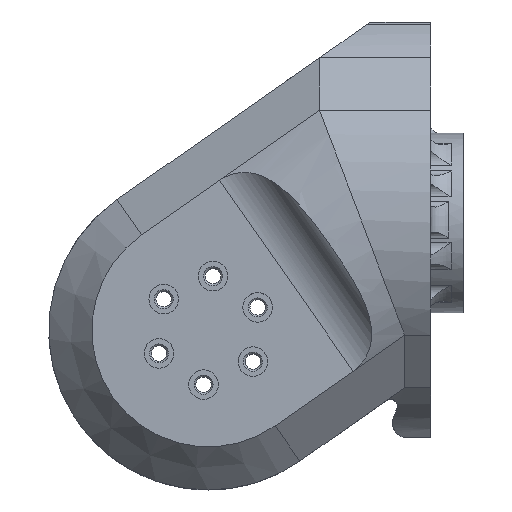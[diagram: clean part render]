
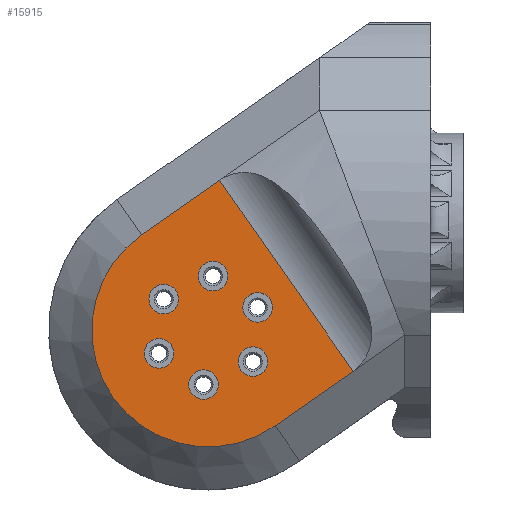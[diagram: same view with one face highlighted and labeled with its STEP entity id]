
A CAD part, top view. The second image highlights one B-rep face of the part: STEP entity #15915.
In plain terms, the highlighted planar face has unit normal (0, 0, 1).
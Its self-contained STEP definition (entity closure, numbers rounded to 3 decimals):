
#4858=CARTESIAN_POINT('',(-122.876,-52.168,51.5));
#4884=CARTESIAN_POINT('',(-85.622,-105.372,51.5));
#4894=DIRECTION('',(-0.574,0.819,0.));
#4895=VECTOR('',#4894,64.95);
#4896=CARTESIAN_POINT('',(-85.622,-105.372,51.5));
#4897=LINE('',#4896,#4895);
#4898=DIRECTION('',(0.819,0.574,0.));
#4899=VECTOR('',#4898,26.553);
#4900=CARTESIAN_POINT('',(-107.373,-120.602,51.5));
#4901=LINE('',#4900,#4899);
#4902=CARTESIAN_POINT('',(-126.,-94.,51.5));
#4903=DIRECTION('',(0.,0.,1.));
#4904=DIRECTION('',(-0.574,0.819,0.));
#4905=AXIS2_PLACEMENT_3D('',#4902,#4903,#4904);
#4907=DIRECTION('',(-0.819,-0.574,0.));
#4908=VECTOR('',#4907,26.553);
#4909=CARTESIAN_POINT('',(-122.876,-52.168,51.5));
#4910=LINE('',#4909,#4908);
#4911=CARTESIAN_POINT('',(-112.242,-87.585,51.5));
#4912=DIRECTION('',(0.,0.,-1.));
#4913=DIRECTION('',(0.,1.,0.));
#4914=AXIS2_PLACEMENT_3D('',#4911,#4912,#4913);
#4916=CARTESIAN_POINT('',(-112.242,-87.585,51.5));
#4917=DIRECTION('',(0.,0.,-1.));
#4918=DIRECTION('',(0.,-1.,0.));
#4919=AXIS2_PLACEMENT_3D('',#4916,#4917,#4918);
#4921=CARTESIAN_POINT('',(-138.435,-85.293,51.5));
#4922=DIRECTION('',(0.,0.,-1.));
#4923=DIRECTION('',(0.,1.,0.));
#4924=AXIS2_PLACEMENT_3D('',#4921,#4922,#4923);
#4926=CARTESIAN_POINT('',(-138.435,-85.293,51.5));
#4927=DIRECTION('',(0.,0.,-1.));
#4928=DIRECTION('',(0.,-1.,0.));
#4929=AXIS2_PLACEMENT_3D('',#4926,#4927,#4928);
#4931=CARTESIAN_POINT('',(-139.758,-100.415,51.5));
#4932=DIRECTION('',(0.,0.,-1.));
#4933=DIRECTION('',(0.,1.,0.));
#4934=AXIS2_PLACEMENT_3D('',#4931,#4932,#4933);
#4936=CARTESIAN_POINT('',(-139.758,-100.415,51.5));
#4937=DIRECTION('',(0.,0.,-1.));
#4938=DIRECTION('',(0.,-1.,0.));
#4939=AXIS2_PLACEMENT_3D('',#4936,#4937,#4938);
#4941=CARTESIAN_POINT('',(-127.323,-109.122,51.5));
#4942=DIRECTION('',(0.,0.,-1.));
#4943=DIRECTION('',(0.,1.,0.));
#4944=AXIS2_PLACEMENT_3D('',#4941,#4942,#4943);
#4946=CARTESIAN_POINT('',(-127.323,-109.122,51.5));
#4947=DIRECTION('',(0.,0.,-1.));
#4948=DIRECTION('',(0.,-1.,0.));
#4949=AXIS2_PLACEMENT_3D('',#4946,#4947,#4948);
#4951=CARTESIAN_POINT('',(-113.565,-102.707,51.5));
#4952=DIRECTION('',(0.,0.,-1.));
#4953=DIRECTION('',(0.,1.,0.));
#4954=AXIS2_PLACEMENT_3D('',#4951,#4952,#4953);
#4956=CARTESIAN_POINT('',(-113.565,-102.707,51.5));
#4957=DIRECTION('',(0.,0.,-1.));
#4958=DIRECTION('',(0.,-1.,0.));
#4959=AXIS2_PLACEMENT_3D('',#4956,#4957,#4958);
#4961=CARTESIAN_POINT('',(-124.677,-78.878,51.5));
#4962=DIRECTION('',(0.,0.,-1.));
#4963=DIRECTION('',(0.,1.,0.));
#4964=AXIS2_PLACEMENT_3D('',#4961,#4962,#4963);
#4966=CARTESIAN_POINT('',(-124.677,-78.878,51.5));
#4967=DIRECTION('',(0.,0.,-1.));
#4968=DIRECTION('',(0.,-1.,0.));
#4969=AXIS2_PLACEMENT_3D('',#4966,#4967,#4968);
#8224=VERTEX_POINT('',#4858);
#8225=VERTEX_POINT('',#4884);
#8321=CARTESIAN_POINT('',(-107.373,-120.602,51.5));
#8323=VERTEX_POINT('',#8321);
#8508=CARTESIAN_POINT('',(-144.627,-67.398,51.5));
#8510=VERTEX_POINT('',#8508);
#9317=CARTESIAN_POINT('',(-124.677,-74.753,51.5));
#9319=VERTEX_POINT('',#9317);
#9321=CARTESIAN_POINT('',(-124.677,-83.003,51.5));
#9323=VERTEX_POINT('',#9321);
#9325=CARTESIAN_POINT('',(-113.565,-98.582,51.5));
#9327=VERTEX_POINT('',#9325);
#9329=CARTESIAN_POINT('',(-113.565,-106.832,51.5));
#9331=VERTEX_POINT('',#9329);
#9333=CARTESIAN_POINT('',(-127.323,-104.997,51.5));
#9335=VERTEX_POINT('',#9333);
#9337=CARTESIAN_POINT('',(-127.323,-113.247,51.5));
#9339=VERTEX_POINT('',#9337);
#9341=CARTESIAN_POINT('',(-139.758,-96.29,51.5));
#9343=VERTEX_POINT('',#9341);
#9345=CARTESIAN_POINT('',(-139.758,-104.54,51.5));
#9347=VERTEX_POINT('',#9345);
#9349=CARTESIAN_POINT('',(-138.435,-89.418,51.5));
#9351=VERTEX_POINT('',#9349);
#9353=CARTESIAN_POINT('',(-138.435,-81.168,51.5));
#9355=VERTEX_POINT('',#9353);
#9357=CARTESIAN_POINT('',(-112.242,-91.71,51.5));
#9359=VERTEX_POINT('',#9357);
#9361=CARTESIAN_POINT('',(-112.242,-83.46,51.5));
#9363=VERTEX_POINT('',#9361);
#15868=CARTESIAN_POINT('',(-47.738,-82.296,51.5));
#15869=DIRECTION('',(0.,0.,1.));
#15870=DIRECTION('',(-1.,0.,0.));
#15871=AXIS2_PLACEMENT_3D('',#15868,#15869,#15870);
#15872=PLANE('',#15871);
#15873=ORIENTED_EDGE('',*,*,#15863,.F.);
#15874=ORIENTED_EDGE('',*,*,#15791,.F.);
#15875=ORIENTED_EDGE('',*,*,#15808,.F.);
#15876=ORIENTED_EDGE('',*,*,#15825,.F.);
#15877=EDGE_LOOP('',(#15873,#15874,#15875,#15876));
#15878=FACE_OUTER_BOUND('',#15877,.F.);
#15880=ORIENTED_EDGE('',*,*,#15879,.F.);
#15882=ORIENTED_EDGE('',*,*,#15881,.F.);
#15883=EDGE_LOOP('',(#15880,#15882));
#15884=FACE_BOUND('',#15883,.F.);
#15886=ORIENTED_EDGE('',*,*,#15885,.F.);
#15888=ORIENTED_EDGE('',*,*,#15887,.F.);
#15889=EDGE_LOOP('',(#15886,#15888));
#15890=FACE_BOUND('',#15889,.F.);
#15892=ORIENTED_EDGE('',*,*,#15891,.F.);
#15894=ORIENTED_EDGE('',*,*,#15893,.F.);
#15895=EDGE_LOOP('',(#15892,#15894));
#15896=FACE_BOUND('',#15895,.F.);
#15898=ORIENTED_EDGE('',*,*,#15897,.F.);
#15900=ORIENTED_EDGE('',*,*,#15899,.F.);
#15901=EDGE_LOOP('',(#15898,#15900));
#15902=FACE_BOUND('',#15901,.F.);
#15904=ORIENTED_EDGE('',*,*,#15903,.F.);
#15906=ORIENTED_EDGE('',*,*,#15905,.F.);
#15907=EDGE_LOOP('',(#15904,#15906));
#15908=FACE_BOUND('',#15907,.F.);
#15910=ORIENTED_EDGE('',*,*,#15909,.F.);
#15912=ORIENTED_EDGE('',*,*,#15911,.F.);
#15913=EDGE_LOOP('',(#15910,#15912));
#15914=FACE_BOUND('',#15913,.F.);
#15915=ADVANCED_FACE('',(#15878,#15884,#15890,#15896,#15902,#15908,#15914),
#15872,.T.);
#4906=CIRCLE('',#4905,32.475);
#4915=CIRCLE('',#4914,4.125);
#4920=CIRCLE('',#4919,4.125);
#4925=CIRCLE('',#4924,4.125);
#4930=CIRCLE('',#4929,4.125);
#4935=CIRCLE('',#4934,4.125);
#4940=CIRCLE('',#4939,4.125);
#4945=CIRCLE('',#4944,4.125);
#4950=CIRCLE('',#4949,4.125);
#4955=CIRCLE('',#4954,4.125);
#4960=CIRCLE('',#4959,4.125);
#4965=CIRCLE('',#4964,4.125);
#4970=CIRCLE('',#4969,4.125);
#15791=EDGE_CURVE('',#8323,#8225,#4901,.T.);
#15808=EDGE_CURVE('',#8510,#8323,#4906,.T.);
#15825=EDGE_CURVE('',#8224,#8510,#4910,.T.);
#15863=EDGE_CURVE('',#8225,#8224,#4897,.T.);
#15879=EDGE_CURVE('',#9363,#9359,#4915,.T.);
#15881=EDGE_CURVE('',#9359,#9363,#4920,.T.);
#15885=EDGE_CURVE('',#9355,#9351,#4925,.T.);
#15887=EDGE_CURVE('',#9351,#9355,#4930,.T.);
#15891=EDGE_CURVE('',#9343,#9347,#4935,.T.);
#15893=EDGE_CURVE('',#9347,#9343,#4940,.T.);
#15897=EDGE_CURVE('',#9335,#9339,#4945,.T.);
#15899=EDGE_CURVE('',#9339,#9335,#4950,.T.);
#15903=EDGE_CURVE('',#9327,#9331,#4955,.T.);
#15905=EDGE_CURVE('',#9331,#9327,#4960,.T.);
#15909=EDGE_CURVE('',#9319,#9323,#4965,.T.);
#15911=EDGE_CURVE('',#9323,#9319,#4970,.T.);
